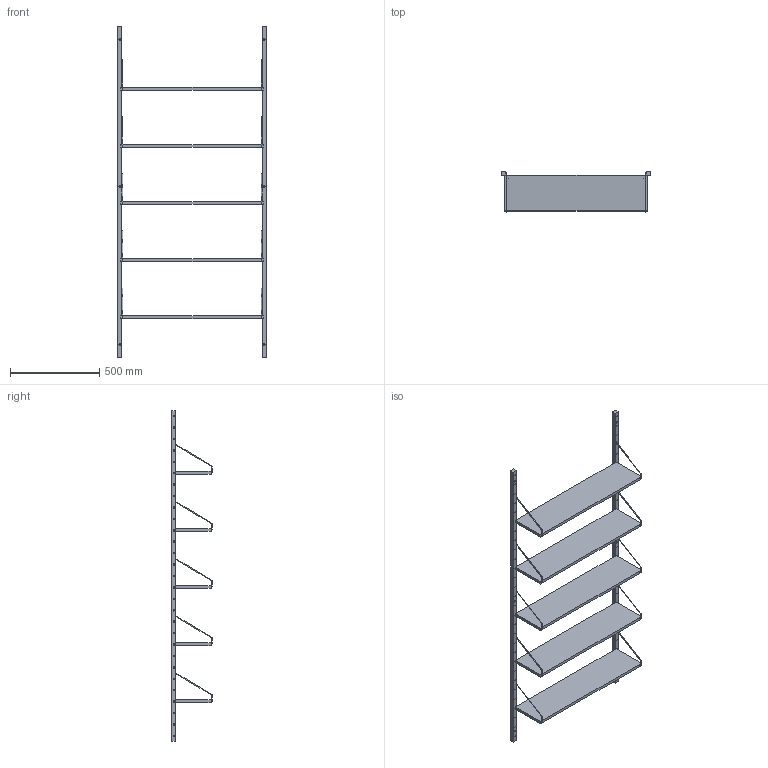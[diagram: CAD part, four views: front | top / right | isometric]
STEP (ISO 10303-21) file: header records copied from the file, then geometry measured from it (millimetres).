
FILE_DESCRIPTION(/* description */ (''),/* implementation_level */ '2;1');
FILE_NAME(/* name */ 'FRAMA_Shelf Library-Wood-5 Shelves-D20-W80-3D',/* time_stamp */ '2025-11-07T16:13:19+01:00',/* author */ (''),/* organization */ (''),/* preprocessor_version */ 'ST-DEVELOPER v16.5',/* originating_system */ 'Rhino 7.38',/* authorisation */ '');
FILE_SCHEMA (('CONFIG_CONTROL_DESIGN'));
Length unit declared in the file: millimetre
Products named in the file (3): Document; Document1; Shelf Library Rails_1852 v1
Assembly tree (2 placements, depth 3):
  Document
    Document1
      Shelf Library Rails_1852 v1
Bounding box: 833.2 x 226.49 x 1852 mm (x, y, z)
Volume: 14554575.2 mm3; surface area: 2189430.4 mm2
Topology: 17 solids, 17 shells, 840 faces, 1808 edges, 1148 vertices
Faces by surface type: cylinder 520, plane 208, bspline 112
Entity records: 30710 total; most frequent: CARTESIAN_POINT 17955, ORIENTED_EDGE 3616, EDGE_CURVE 1808, VERTEX_POINT 1148, EDGE_LOOP 1114, ADVANCED_FACE 840, FACE_OUTER_BOUND 840, DIRECTION 742
